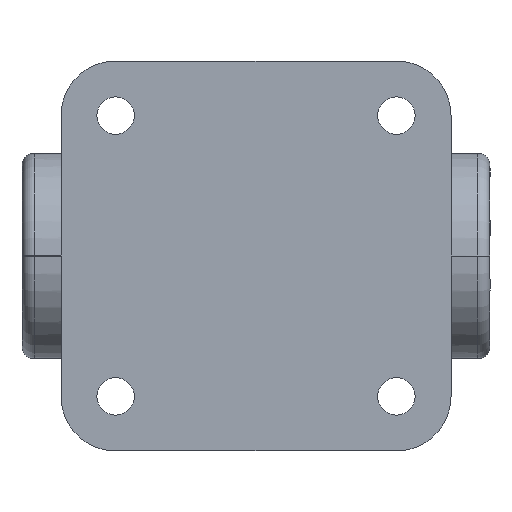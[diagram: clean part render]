
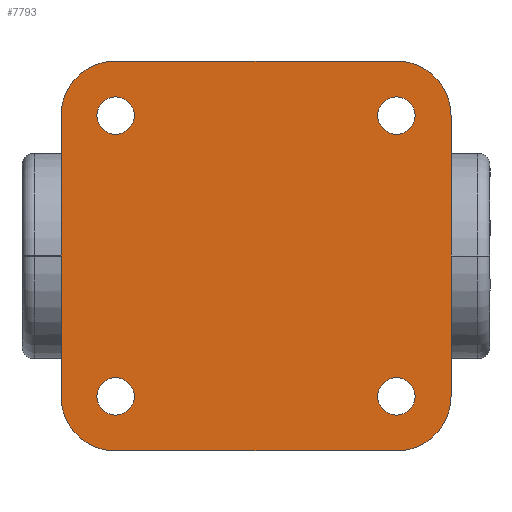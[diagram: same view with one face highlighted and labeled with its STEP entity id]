
A CAD part, front view. The second image highlights one B-rep face of the part: STEP entity #7793.
In plain terms, the highlighted planar face has unit normal (0, -1, 0).
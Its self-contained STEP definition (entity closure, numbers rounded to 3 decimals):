
#777=LINE('',#14151,#1422);
#778=LINE('',#14153,#1423);
#779=LINE('',#14155,#1424);
#780=LINE('',#14157,#1425);
#1422=VECTOR('',#9938,1000.);
#1423=VECTOR('',#9941,1000.);
#1424=VECTOR('',#9944,1000.);
#1425=VECTOR('',#9947,1000.);
#1976=FACE_BOUND('',#2624,.T.);
#1977=FACE_BOUND('',#2625,.T.);
#1978=FACE_BOUND('',#2626,.T.);
#1979=FACE_BOUND('',#2627,.T.);
#2136=FACE_OUTER_BOUND('',#2623,.T.);
#2623=EDGE_LOOP('',(#5952,#5953,#5954,#5955,#5956,#5957,#5958,#5959));
#2624=EDGE_LOOP('',(#5960));
#2625=EDGE_LOOP('',(#5961));
#2626=EDGE_LOOP('',(#5962));
#2627=EDGE_LOOP('',(#5963));
#3046=CIRCLE('',#8676,6.);
#3048=CIRCLE('',#8679,6.);
#3050=CIRCLE('',#8682,6.);
#3052=CIRCLE('',#8685,6.);
#3062=CIRCLE('',#8701,17.5);
#3064=CIRCLE('',#8704,17.5);
#3066=CIRCLE('',#8707,17.5);
#3068=CIRCLE('',#8710,17.5);
#3420=VERTEX_POINT('',#13232);
#3422=VERTEX_POINT('',#13238);
#3424=VERTEX_POINT('',#13244);
#3426=VERTEX_POINT('',#13250);
#3446=VERTEX_POINT('',#13299);
#3447=VERTEX_POINT('',#13300);
#3448=VERTEX_POINT('',#13306);
#3449=VERTEX_POINT('',#13307);
#3450=VERTEX_POINT('',#13313);
#3451=VERTEX_POINT('',#13314);
#3452=VERTEX_POINT('',#13320);
#3453=VERTEX_POINT('',#13321);
#4279=EDGE_CURVE('',#3420,#3420,#3046,.T.);
#4282=EDGE_CURVE('',#3422,#3422,#3048,.T.);
#4285=EDGE_CURVE('',#3424,#3424,#3050,.T.);
#4288=EDGE_CURVE('',#3426,#3426,#3052,.T.);
#4311=EDGE_CURVE('',#3446,#3447,#3062,.T.);
#4315=EDGE_CURVE('',#3448,#3449,#3064,.T.);
#4319=EDGE_CURVE('',#3450,#3451,#3066,.T.);
#4323=EDGE_CURVE('',#3452,#3453,#3068,.T.);
#4470=EDGE_CURVE('',#3453,#3446,#777,.T.);
#4471=EDGE_CURVE('',#3451,#3452,#778,.T.);
#4472=EDGE_CURVE('',#3449,#3450,#779,.T.);
#4473=EDGE_CURVE('',#3447,#3448,#780,.T.);
#5952=ORIENTED_EDGE('',*,*,#4315,.F.);
#5953=ORIENTED_EDGE('',*,*,#4473,.F.);
#5954=ORIENTED_EDGE('',*,*,#4311,.F.);
#5955=ORIENTED_EDGE('',*,*,#4470,.F.);
#5956=ORIENTED_EDGE('',*,*,#4323,.F.);
#5957=ORIENTED_EDGE('',*,*,#4471,.F.);
#5958=ORIENTED_EDGE('',*,*,#4319,.F.);
#5959=ORIENTED_EDGE('',*,*,#4472,.F.);
#5960=ORIENTED_EDGE('',*,*,#4279,.T.);
#5961=ORIENTED_EDGE('',*,*,#4282,.T.);
#5962=ORIENTED_EDGE('',*,*,#4285,.T.);
#5963=ORIENTED_EDGE('',*,*,#4288,.T.);
#7487=PLANE('',#8745);
#7793=ADVANCED_FACE('',(#2136,#1976,#1977,#1978,#1979),#7487,.F.);
#8676=AXIS2_PLACEMENT_3D('',#13233,#9703,#9704);
#8679=AXIS2_PLACEMENT_3D('',#13239,#9710,#9711);
#8682=AXIS2_PLACEMENT_3D('',#13245,#9717,#9718);
#8685=AXIS2_PLACEMENT_3D('',#13251,#9724,#9725);
#8701=AXIS2_PLACEMENT_3D('',#13301,#9769,#9770);
#8704=AXIS2_PLACEMENT_3D('',#13308,#9777,#9778);
#8707=AXIS2_PLACEMENT_3D('',#13315,#9785,#9786);
#8710=AXIS2_PLACEMENT_3D('',#13322,#9793,#9794);
#8745=AXIS2_PLACEMENT_3D('',#14158,#9948,#9949);
#9703=DIRECTION('center_axis',(0.,1.,0.));
#9704=DIRECTION('ref_axis',(-1.,0.,0.));
#9710=DIRECTION('center_axis',(0.,1.,0.));
#9711=DIRECTION('ref_axis',(-1.,0.,0.));
#9717=DIRECTION('center_axis',(0.,1.,0.));
#9718=DIRECTION('ref_axis',(-1.,0.,0.));
#9724=DIRECTION('center_axis',(0.,1.,0.));
#9725=DIRECTION('ref_axis',(-1.,0.,0.));
#9769=DIRECTION('center_axis',(0.,1.,0.));
#9770=DIRECTION('ref_axis',(-0.707,0.,-0.707));
#9777=DIRECTION('center_axis',(0.,1.,0.));
#9778=DIRECTION('ref_axis',(-0.707,0.,0.707));
#9785=DIRECTION('center_axis',(0.,1.,0.));
#9786=DIRECTION('ref_axis',(0.707,0.,0.707));
#9793=DIRECTION('center_axis',(0.,1.,0.));
#9794=DIRECTION('ref_axis',(0.707,0.,-0.707));
#9938=DIRECTION('',(-1.,0.,0.));
#9941=DIRECTION('',(0.,0.,-1.));
#9944=DIRECTION('',(1.,0.,0.));
#9947=DIRECTION('',(0.,0.,1.));
#9948=DIRECTION('center_axis',(0.,1.,0.));
#9949=DIRECTION('ref_axis',(1.,0.,0.));
#13232=CARTESIAN_POINT('',(51.,0.,45.));
#13233=CARTESIAN_POINT('Origin',(45.,0.,45.));
#13238=CARTESIAN_POINT('',(51.,0.,-45.));
#13239=CARTESIAN_POINT('Origin',(45.,0.,-45.));
#13244=CARTESIAN_POINT('',(-39.,0.,-45.));
#13245=CARTESIAN_POINT('Origin',(-45.,0.,-45.));
#13250=CARTESIAN_POINT('',(-39.,0.,45.));
#13251=CARTESIAN_POINT('Origin',(-45.,0.,45.));
#13299=CARTESIAN_POINT('',(-45.,0.,-62.5));
#13300=CARTESIAN_POINT('',(-62.5,0.,-45.));
#13301=CARTESIAN_POINT('Origin',(-45.,0.,-45.));
#13306=CARTESIAN_POINT('',(-62.5,0.,45.));
#13307=CARTESIAN_POINT('',(-45.,0.,62.5));
#13308=CARTESIAN_POINT('Origin',(-45.,0.,45.));
#13313=CARTESIAN_POINT('',(45.,0.,62.5));
#13314=CARTESIAN_POINT('',(62.5,0.,45.));
#13315=CARTESIAN_POINT('Origin',(45.,0.,45.));
#13320=CARTESIAN_POINT('',(62.5,0.,-45.));
#13321=CARTESIAN_POINT('',(45.,0.,-62.5));
#13322=CARTESIAN_POINT('Origin',(45.,0.,-45.));
#14151=CARTESIAN_POINT('',(62.5,0.,-62.5));
#14153=CARTESIAN_POINT('',(62.5,0.,62.5));
#14155=CARTESIAN_POINT('',(-62.5,0.,62.5));
#14157=CARTESIAN_POINT('',(-62.5,0.,-62.5));
#14158=CARTESIAN_POINT('Origin',(0.,0.,0.));
